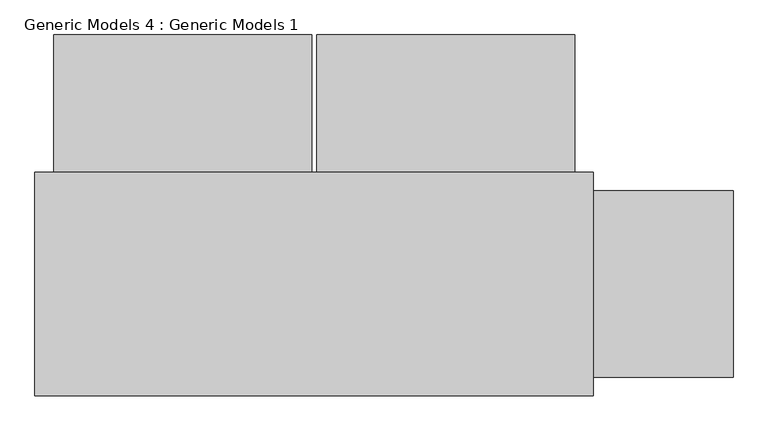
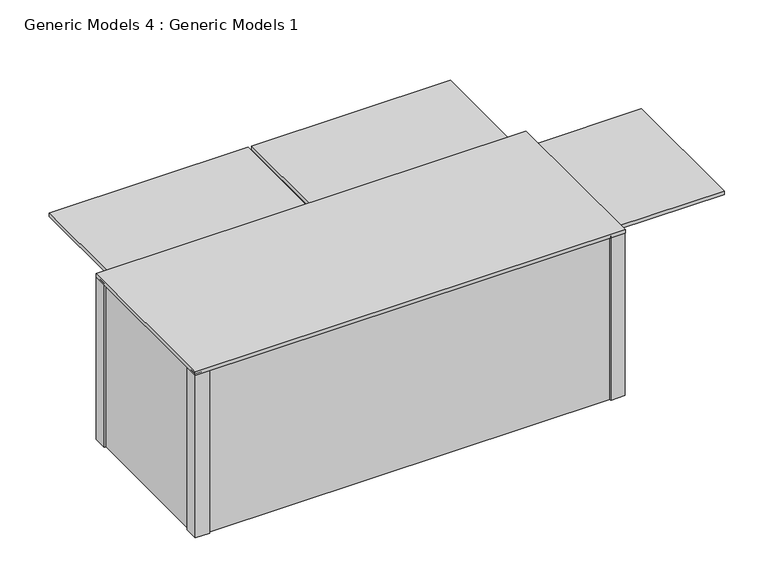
"""IFC4 building model written with IfcOpenShell, lengths in millimetres: proxy geometry, Generic Models 4 : Generic Models 1."""

from ifc_helpers import new_model, si_unit, frame, origin, place, context, project, spatial, polyline, outline, extrude, faceted_brep, source, transform, mapped, element, save


def generic_models_4_generic_models_1_bd5a4ce0(model_context):
    return source(origin(), model_context, "Body", "SolidModel", [
        extrude(outline(polyline([(120332.4911269, 202266.330473), (120332.4911269, 204704.730473), (126428.4911269, 204704.730473), (126428.4911269, 202266.330473), (120332.4911269, 202266.330473)])), frame((0.0, 0.0, 5968.9941705), z_axis=(0.0, 0.0, 1.0), x_axis=(1.0, 0.0, 0.0)), (0.0, 0.0, 1.0), 50.8),
        extrude(outline(polyline([(127952.4911269, 202472.1405451), (126403.0911269, 202472.1405451), (126403.0911269, 204504.1405451), (127952.4911269, 204504.1405451), (127952.4911269, 202472.1405451)])), frame((0.0, 0.0, 5892.7941705), z_axis=(0.0, 0.0, 1.0), x_axis=(1.0, 0.0, 0.0)), (0.0, 0.0, 1.0), 50.8),
        extrude(outline(polyline([(123405.8911269, 204681.9405451), (123405.8911269, 206205.9405451), (126225.2911269, 206205.9405451), (126225.2911269, 204681.9405451), (123405.8911269, 204681.9405451)])), frame((0.0, 0.0, 5892.7941705), z_axis=(0.0, 0.0, 1.0), x_axis=(1.0, 0.0, 0.0)), (0.0, 0.0, 1.0), 50.8),
        extrude(outline(polyline([(123355.0911269, 204681.9405451), (120535.6911269, 204681.9405451), (120535.6911269, 206205.9405451), (123355.0911269, 206205.9405451), (123355.0911269, 204681.9405451)])), frame((0.0, 0.0, 5892.7941705), z_axis=(0.0, 0.0, 1.0), x_axis=(1.0, 0.0, 0.0)), (0.0, 0.0, 1.0), 50.8),
        extrude(outline(polyline([(126233.4409488, 204504.1405451), (126233.4409488, 202472.1405451), (126182.6409488, 202472.1405451), (126182.6409488, 204459.6905451), (120510.2911269, 204459.6905451), (120510.2911269, 204510.4905451), (126233.4409488, 204510.4905451), (126233.4409488, 204504.1405451)])), frame((0.0, 0.0, 3530.5941705), z_axis=(0.0, 0.0, 1.0), x_axis=(1.0, 0.0, 0.0)), (0.0, 0.0, 1.0), 914.4),
        extrude(outline(polyline([(120535.6911269, 204681.9405451), (126225.2911269, 204681.9405451), (126225.2911269, 204529.5405451), (120535.6911269, 204529.5405451), (120535.6911269, 204681.9405451)])), frame((0.0, 0.0, 5867.3941705), z_axis=(0.0, 0.0, 1.0), x_axis=(1.0, 0.0, 0.0)), (0.0, 0.0, 1.0), 114.3),
        extrude(outline(polyline([(120357.8911269, 204504.1405451), (120510.2911269, 204504.1405451), (120510.2911269, 202472.1405451), (120357.8911269, 202472.1405451), (120357.8911269, 204504.1405451)])), frame((0.0, 0.0, 3530.5941705), z_axis=(0.0, 0.0, 1.0), x_axis=(1.0, 0.0, 0.0)), (0.0, 0.0, 1.0), 2451.1),
        extrude(outline(polyline([(126225.2911269, 202294.3405451), (120535.6911269, 202294.3405451), (120535.6911269, 202446.7405451), (126225.2911269, 202446.7405451), (126225.2911269, 202294.3405451)])), frame((0.0, 0.0, 3530.5941705), z_axis=(0.0, 0.0, 1.0), x_axis=(1.0, 0.0, 0.0)), (0.0, 0.0, 1.0), 2451.1),
        extrude(outline(polyline([(126403.0911269, 202472.1405451), (126250.6911269, 202472.1405451), (126250.6911269, 204504.1405451), (126403.0911269, 204504.1405451), (126403.0911269, 202472.1405451)])), frame((0.0, 0.0, 5867.3941705), z_axis=(0.0, 0.0, 1.0), x_axis=(1.0, 0.0, 0.0)), (0.0, 0.0, 1.0), 114.3),
        extrude(outline(polyline([(120535.6911269, 204681.9405451), (126225.2911269, 204681.9405451), (126225.2911269, 204529.5405451), (120535.6911269, 204529.5405451), (120535.6911269, 204681.9405451)])), frame((0.0, 0.0, 3530.5941705), z_axis=(0.0, 0.0, 1.0), x_axis=(1.0, 0.0, 0.0)), (0.0, 0.0, 1.0), 101.6),
        extrude(outline(polyline([(126403.0911269, 202472.1405451), (126250.6911269, 202472.1405451), (126250.6911269, 204504.1405451), (126403.0911269, 204504.1405451), (126403.0911269, 202472.1405451)])), frame((0.0, 0.0, 3530.5941705), z_axis=(0.0, 0.0, 1.0), x_axis=(1.0, 0.0, 0.0)), (0.0, 0.0, 1.0), 101.6),
        faceted_brep([(126225.2911269, 204704.730473, 5994.3941705), (126225.2911269, 204504.1405451, 5994.3941705), (126428.4911269, 204504.1405451, 5994.3941705), (126428.4911269, 204704.730473, 5994.3941705), (126225.2911269, 204704.730473, 3530.5941705), (126428.4911269, 204704.730473, 3530.5941705), (126428.4911269, 204504.1405451, 3530.5941705), (126225.2911269, 204504.1405451, 3530.5941705), (126225.2911269, 204504.1405451, 5867.3941705), (126225.2911269, 204504.1405451, 3632.1941705)], [[[0, 1, 2, 3]], [[4, 5, 6, 7]], [[0, 3, 5, 4]], [[3, 2, 6, 5]], [[2, 1, 8, 9, 7, 6]], [[1, 0, 4, 7, 9, 8]]]),
        faceted_brep([(120332.4911269, 204704.730473, 5994.3941705), (120332.4911269, 204504.1405451, 5994.3941705), (120535.6911269, 204504.1405451, 5994.3941705), (120535.6911269, 204704.730473, 5994.3941705), (120332.4911269, 204704.730473, 3530.5941705), (120535.6911269, 204704.730473, 3530.5941705), (120535.6911269, 204504.1405451, 3530.5941705), (120332.4911269, 204504.1405451, 3530.5941705)], [[[0, 1, 2, 3]], [[4, 5, 6, 7]], [[0, 3, 5, 4]], [[3, 2, 6, 5]], [[2, 1, 7, 6]], [[1, 0, 4, 7]]]),
        faceted_brep([(126225.2911269, 202472.1405451, 5994.3941705), (126225.2911269, 202268.9405451, 5994.3941705), (126428.4911269, 202268.9405451, 5994.3941705), (126428.4911269, 202472.1405451, 5994.3941705), (126225.2911269, 202472.1405451, 3530.5941705), (126428.4911269, 202472.1405451, 3530.5941705), (126428.4911269, 202268.9405451, 3530.5941705), (126225.2911269, 202268.9405451, 3530.5941705), (126225.2911269, 202472.1405451, 3632.1941705), (126225.2911269, 202472.1405451, 5867.3941705)], [[[0, 1, 2, 3]], [[4, 5, 6, 7]], [[0, 3, 5, 4, 8, 9]], [[3, 2, 6, 5]], [[2, 1, 7, 6]], [[1, 0, 9, 8, 4, 7]]]),
        faceted_brep([(120332.4911269, 202472.1405451, 5994.3941705), (120332.4911269, 202268.9405451, 5994.3941705), (120535.6911269, 202268.9405451, 5994.3941705), (120535.6911269, 202472.1405451, 5994.3941705), (120332.4911269, 202472.1405451, 3530.5941705), (120535.6911269, 202472.1405451, 3530.5941705), (120535.6911269, 202268.9405451, 3530.5941705), (120332.4911269, 202268.9405451, 3530.5941705)], [[[0, 1, 2, 3]], [[4, 5, 6, 7]], [[0, 3, 5, 4]], [[3, 2, 6, 5]], [[2, 1, 7, 6]], [[1, 0, 4, 7]]]),
    ])


if __name__ == "__main__":
    model = new_model("IFC4")
    model_context = context("Model", 3, world=origin())
    ifc_project = project(units=[si_unit("LENGTHUNIT", "METRE", prefix="MILLI")], contexts=[model_context])
    site = spatial("IfcSite", under=ifc_project)
    building = spatial("IfcBuilding", under=site)
    placement = place(None, origin())
    generic_models_4_generic_models_1_shape = generic_models_4_generic_models_1_bd5a4ce0(model_context)
    element("IfcBuildingElementProxy", 1, Name="Generic Models 4 : Generic Models 1", ObjectType="Generic Models 4 : Generic Models 1", at=placement, inside=building, context=model_context, shape_type="MappedRepresentation", body=[
        mapped(generic_models_4_generic_models_1_shape, transform((0.0, 0.0, 0.0), x_axis=(1.0, 0.0, 0.0), y_axis=(0.0, 1.0, 0.0), z_axis=(0.0, 0.0, 1.0))),
    ])
    save(model, "model.ifc")
